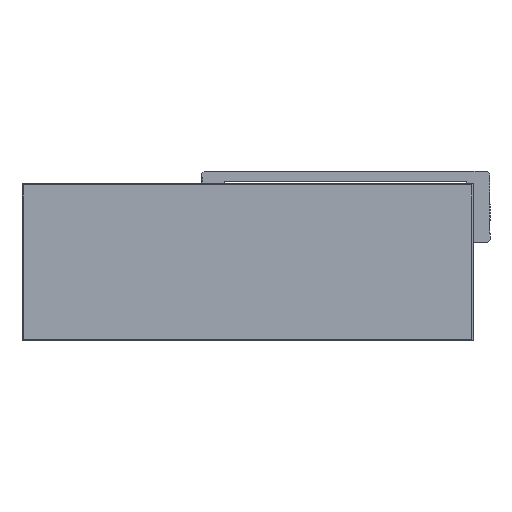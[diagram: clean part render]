
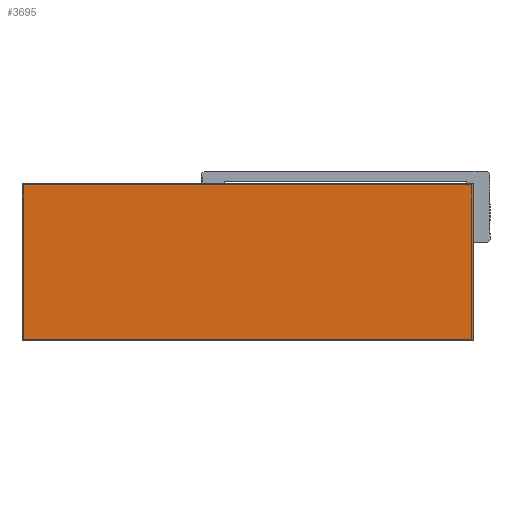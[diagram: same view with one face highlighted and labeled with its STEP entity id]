
A CAD part, top view. The second image highlights one B-rep face of the part: STEP entity #3695.
In plain terms, the highlighted planar face has unit normal (0, 0, 1).
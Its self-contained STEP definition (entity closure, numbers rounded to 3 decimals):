
#1694 = LINE ( 'NONE', #20603, #7693 ) ;
#1979 = CARTESIAN_POINT ( 'NONE',  ( 0., 0., 70. ) ) ;
#2891 = CARTESIAN_POINT ( 'NONE',  ( 313., 109., 70. ) ) ;
#3307 = FACE_OUTER_BOUND ( 'NONE', #10219, .T. ) ;
#3695 = ADVANCED_FACE ( 'NONE', ( #3307 ), #11132, .F. ) ;
#4463 = ORIENTED_EDGE ( 'NONE', *, *, #19299, .T. ) ;
#4475 = VECTOR ( 'NONE', #22400, 1000. ) ;
#6202 = DIRECTION ( 'NONE',  ( -1., 0., 0. ) ) ;
#7693 = VECTOR ( 'NONE', #15677, 1000. ) ;
#8033 = LINE ( 'NONE', #1979, #14033 ) ;
#8696 = CARTESIAN_POINT ( 'NONE',  ( 0., 109., 70. ) ) ;
#10219 = EDGE_LOOP ( 'NONE', ( #18332, #23205, #4463, #21365 ) ) ;
#11132 = PLANE ( 'NONE',  #24189 ) ;
#11547 = DIRECTION ( 'NONE',  ( -1., 0., 0. ) ) ;
#11585 = DIRECTION ( 'NONE',  ( 0., 0., -1. ) ) ;
#11829 = CARTESIAN_POINT ( 'NONE',  ( 0., 0., 70. ) ) ;
#13347 = EDGE_CURVE ( 'NONE', #22123, #22318, #25784, .T. ) ;
#14033 = VECTOR ( 'NONE', #29842, 1000. ) ;
#14189 = CARTESIAN_POINT ( 'NONE',  ( 0., 109., 70. ) ) ;
#15677 = DIRECTION ( 'NONE',  ( 0., 1., 0. ) ) ;
#18332 = ORIENTED_EDGE ( 'NONE', *, *, #26961, .T. ) ;
#18618 = LINE ( 'NONE', #8696, #31221 ) ;
#19299 = EDGE_CURVE ( 'NONE', #22318, #24648, #1694, .T. ) ;
#20200 = VERTEX_POINT ( 'NONE', #14189 ) ;
#20603 = CARTESIAN_POINT ( 'NONE',  ( 313., 0., 70. ) ) ;
#20870 = EDGE_CURVE ( 'NONE', #24648, #20200, #18618, .T. ) ;
#21365 = ORIENTED_EDGE ( 'NONE', *, *, #20870, .T. ) ;
#22123 = VERTEX_POINT ( 'NONE', #29108 ) ;
#22318 = VERTEX_POINT ( 'NONE', #24827 ) ;
#22362 = CARTESIAN_POINT ( 'NONE',  ( 0., 0., 70. ) ) ;
#22400 = DIRECTION ( 'NONE',  ( 1., 0., 0. ) ) ;
#23205 = ORIENTED_EDGE ( 'NONE', *, *, #13347, .T. ) ;
#24189 = AXIS2_PLACEMENT_3D ( 'NONE', #11829, #11585, #11547 ) ;
#24648 = VERTEX_POINT ( 'NONE', #2891 ) ;
#24827 = CARTESIAN_POINT ( 'NONE',  ( 313., 0., 70. ) ) ;
#25784 = LINE ( 'NONE', #22362, #4475 ) ;
#26961 = EDGE_CURVE ( 'NONE', #20200, #22123, #8033, .T. ) ;
#29108 = CARTESIAN_POINT ( 'NONE',  ( 0., 0., 70. ) ) ;
#29842 = DIRECTION ( 'NONE',  ( 0., -1., 0. ) ) ;
#31221 = VECTOR ( 'NONE', #6202, 1000. ) ;
